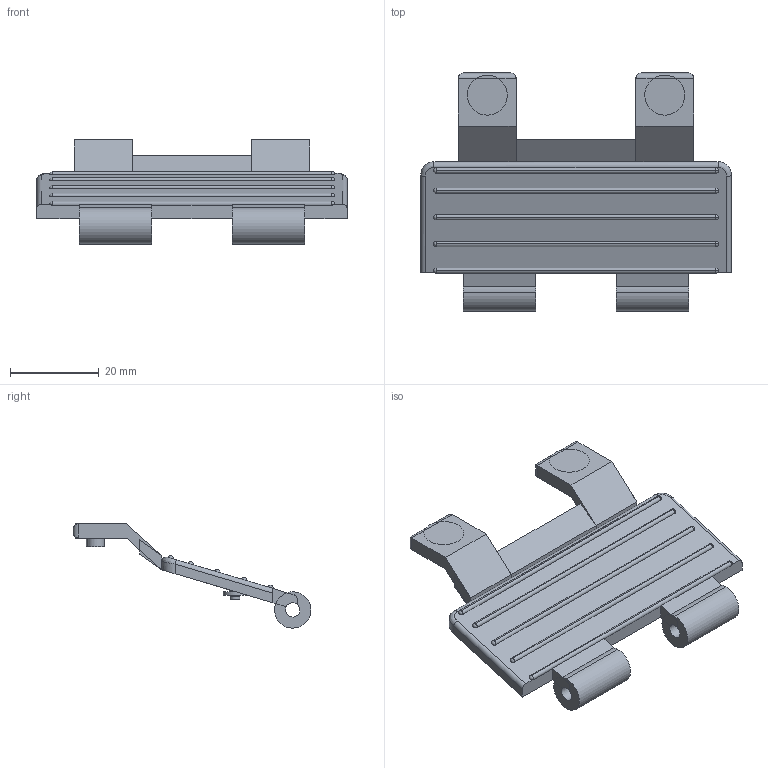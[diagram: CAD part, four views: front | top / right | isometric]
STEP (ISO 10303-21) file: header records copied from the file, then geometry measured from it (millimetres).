
FILE_DESCRIPTION(('FreeCAD Model'),'2;1');
FILE_NAME('Open CASCADE Shape Model','2026-10-18T19:16:07',('FreeCAD'),( 'FreeCAD'),'Open CASCADE STEP processor 7.9','FreeCAD','Unknown');
FILE_SCHEMA(('AUTOMOTIVE_DESIGN { 1 0 10303 214 1 1 1 1 }'));
Length unit declared in the file: millimetre
Products named in the file (1): Open CASCADE STEP translator 7.9 4
Bounding box: 70 x 53.6 x 23.5 mm (x, y, z)
Volume: 9601.2 mm3; surface area: 7692.5 mm2
Topology: 1 solids, 1 shells, 136 faces, 332 edges, 194 vertices
Faces by surface type: plane 72, cylinder 47, sphere 15, bspline 2
Full cylindrical faces by diameter (mm): 2.2 x6, 3.2 x2, 4 x2
Entity records: 4145 total; most frequent: CARTESIAN_POINT 950, DIRECTION 711, ORIENTED_EDGE 634, EDGE_CURVE 317, AXIS2_PLACEMENT_3D 269, VERTEX_POINT 194, LINE 173, VECTOR 173
